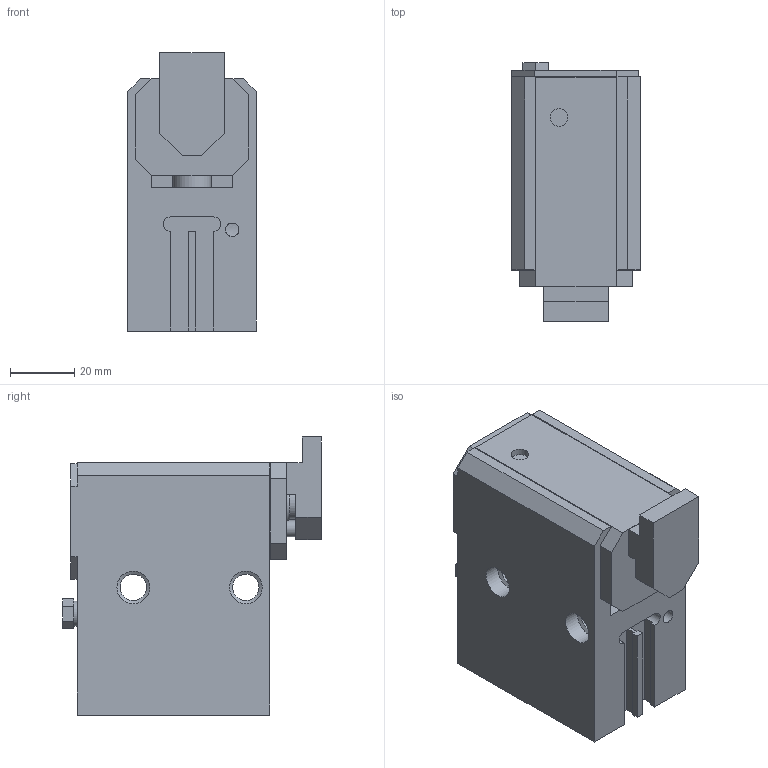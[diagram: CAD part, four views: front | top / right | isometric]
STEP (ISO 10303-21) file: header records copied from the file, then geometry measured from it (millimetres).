
FILE_DESCRIPTION(/* description */ ('Stopper SD-60-EW-08-E'),/* implementation_level */ '2;1');
FILE_NAME(/* name */ 'C:\Marketing\01_Versamove-SPU_STEP-Dateien-Homepage\Versamove plus\Stopper\K503021061_Stopper_SD-60-EW-08.stp',/* time_stamp */ '2017-02-01T13:44:57+01:00',/* author */ ('herbert.engels'),/* organization */ (''),/* preprocessor_version */ 'ST-DEVELOPER v15.6',/* originating_system */ 'Autodesk Inventor 2015',/* authorisation */ '');
FILE_SCHEMA (('CONFIG_CONTROL_DESIGN'));
Length unit declared in the file: millimetre
Products named in the file (1): T-ENG556645
Bounding box: 40 x 80.5 x 86.5 mm (x, y, z)
Volume: 173148.1 mm3; surface area: 43881.3 mm2
Topology: 1 solids, 5 shells, 142 faces, 342 edges, 225 vertices
Faces by surface type: plane 95, cylinder 39, cone 6, torus 2
Full cylindrical faces by diameter (mm): 2.5 x2, 4.1 x1, 4.2 x2, 5 x1, 5.1 x2, 5.2 x1, 5.5 x1, 7.8 x1, 8.2 x2, 10.05 x2, 10.2 x4, 12 x2, 13 x1, 22.06 x1, 24.8 x1, 35.92 x1, 36.05 x2, 38.05 x1
Entity records: 4171 total; most frequent: CARTESIAN_POINT 755, DIRECTION 658, ORIENTED_EDGE 590, EDGE_CURVE 295, AXIS2_PLACEMENT_3D 223, VERTEX_POINT 214, LINE 212, VECTOR 212
